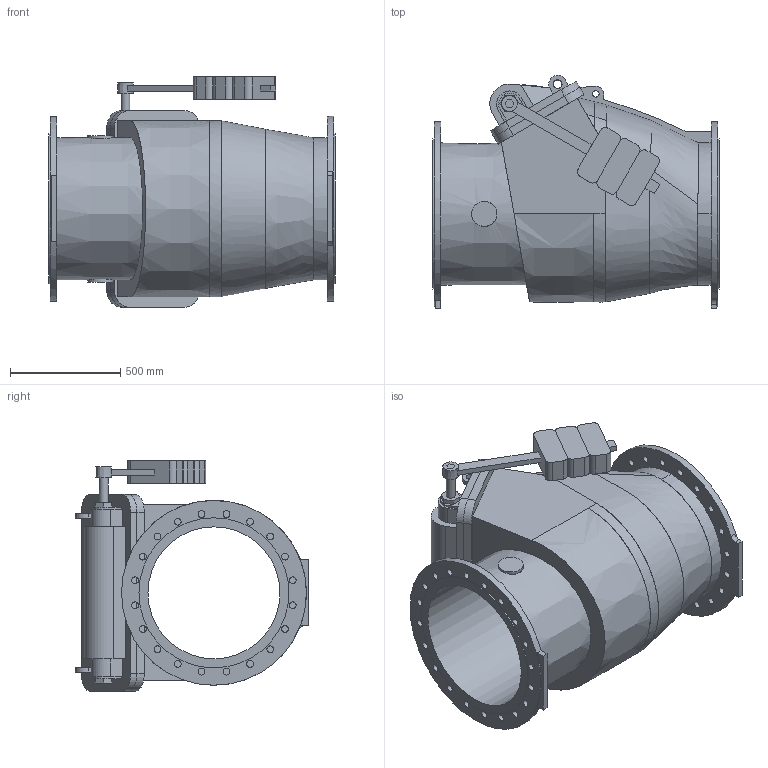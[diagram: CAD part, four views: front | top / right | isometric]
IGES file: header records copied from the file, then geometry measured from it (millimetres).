
Start section: SolidWorks IGES file using analytic representation for surfaces
Global section: file name: \\avksan2\techshare\PBM outline export from Enovia\O_41_36_DN600_X0XXX_AA1.igs; native system: SolidWorks 2012; preprocessor: SolidWorks 2012; author: pbm; date: 180816.104417; units: millimetre
Bounding box: 1300 x 1059.56 x 1047 mm (x, y, z)
Surface area: 8053366.6 mm2 (no closed solid volume)
Topology: 0 solids, 0 shells, 254 faces, 1425 edges, 1323 vertices
Faces by surface type: bspline 166, revolution 88
